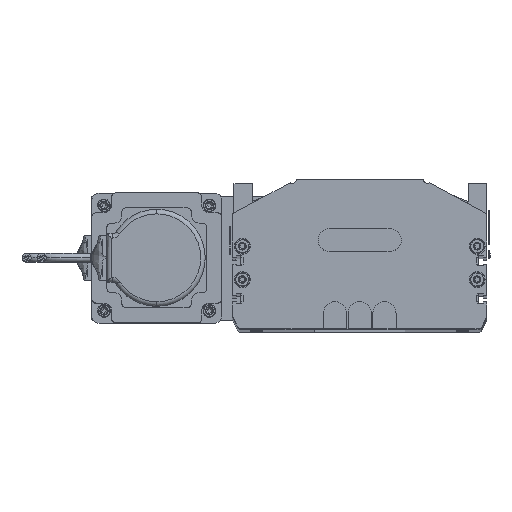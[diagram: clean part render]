
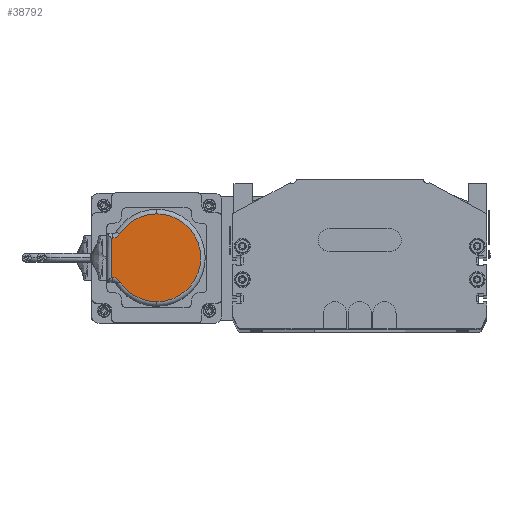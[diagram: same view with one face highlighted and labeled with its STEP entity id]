
A CAD part, top view. The second image highlights one B-rep face of the part: STEP entity #38792.
In plain terms, the highlighted planar face has unit normal (0, 0, 1).
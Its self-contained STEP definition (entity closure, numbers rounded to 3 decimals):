
#24656 = CIRCLE ( 'NONE', #24734, 29. ) ;
#24659 = CARTESIAN_POINT ( 'NONE',  ( 33., 33., 26. ) ) ;
#24674 = DIRECTION ( 'NONE',  ( 1., 0., 0. ) ) ;
#24675 = DIRECTION ( 'NONE',  ( 0., 0., 1. ) ) ;
#24676 = CARTESIAN_POINT ( 'NONE',  ( 33., 33., 26. ) ) ;
#24682 = FACE_OUTER_BOUND ( 'NONE', #39007, .T. ) ;
#24686 = PLANE ( 'NONE',  #24687 ) ;
#24687 = AXIS2_PLACEMENT_3D ( 'NONE', #24676, #24675, #24674 ) ;
#24688 = CARTESIAN_POINT ( 'NONE',  ( 4., 33., 26. ) ) ;
#24720 = CARTESIAN_POINT ( 'NONE',  ( 17.257, 57.355, 26. ) ) ;
#24732 = DIRECTION ( 'NONE',  ( 1., 0., 0. ) ) ;
#24733 = DIRECTION ( 'NONE',  ( 0., 0., 1. ) ) ;
#24734 = AXIS2_PLACEMENT_3D ( 'NONE', #24659, #24733, #24732 ) ;
#26321 = CARTESIAN_POINT ( 'NONE',  ( 46., 62.394, 26. ) ) ;
#26982 = CARTESIAN_POINT ( 'NONE',  ( 46., 63., 26. ) ) ;
#26992 = AXIS2_PLACEMENT_3D ( 'NONE', #27030, #27020, #27148 ) ;
#27020 = DIRECTION ( 'NONE',  ( 0., 0., 1. ) ) ;
#27030 = CARTESIAN_POINT ( 'NONE',  ( 52., 62.394, 26. ) ) ;
#27148 = DIRECTION ( 'NONE',  ( 1., 0., 0. ) ) ;
#27164 = CIRCLE ( 'NONE', #26992, 6. ) ;
#29377 = CARTESIAN_POINT ( 'NONE',  ( 62., 33., 26. ) ) ;
#29580 = CARTESIAN_POINT ( 'NONE',  ( 20., 62.394, 26. ) ) ;
#30041 = CIRCLE ( 'NONE', #30345, 6. ) ;
#30345 = AXIS2_PLACEMENT_3D ( 'NONE', #30374, #30347, #30398 ) ;
#30347 = DIRECTION ( 'NONE',  ( 0., 0., 1. ) ) ;
#30374 = CARTESIAN_POINT ( 'NONE',  ( 14., 62.394, 26. ) ) ;
#30398 = DIRECTION ( 'NONE',  ( 1., 0., 0. ) ) ;
#30784 = DIRECTION ( 'NONE',  ( 1., 0., 0. ) ) ;
#30785 = CARTESIAN_POINT ( 'NONE',  ( 20., 63., 26. ) ) ;
#30787 = DIRECTION ( 'NONE',  ( 0., 1., 0. ) ) ;
#30940 = DIRECTION ( 'NONE',  ( 0., -1., 0. ) ) ;
#30941 = VECTOR ( 'NONE', #30940, 1000. ) ;
#30943 = CARTESIAN_POINT ( 'NONE',  ( 20., 33., 26. ) ) ;
#30948 = LINE ( 'NONE', #30943, #30941 ) ;
#32973 = CARTESIAN_POINT ( 'NONE',  ( 48.743, 57.355, 26. ) ) ;
#33542 = CARTESIAN_POINT ( 'NONE',  ( 46., 33., 26. ) ) ;
#33543 = AXIS2_PLACEMENT_3D ( 'NONE', #33603, #33602, #30784 ) ;
#33595 = LINE ( 'NONE', #33542, #33599 ) ;
#33599 = VECTOR ( 'NONE', #30787, 1000. ) ;
#33602 = DIRECTION ( 'NONE',  ( 0., 0., 1. ) ) ;
#33603 = CARTESIAN_POINT ( 'NONE',  ( 33., 33., 26. ) ) ;
#33664 = DIRECTION ( 'NONE',  ( -1., 0., 0. ) ) ;
#33665 = VECTOR ( 'NONE', #33664, 1000. ) ;
#33667 = CARTESIAN_POINT ( 'NONE',  ( 17.5, 63., 26. ) ) ;
#33673 = LINE ( 'NONE', #33667, #33665 ) ;
#33746 = CIRCLE ( 'NONE', #33543, 29. ) ;
#37795 = EDGE_CURVE ( 'NONE', #38757, #38682, #46701, .T. ) ;
#38679 = VERTEX_POINT ( 'NONE', #30785 ) ;
#38680 = EDGE_CURVE ( 'NONE', #38770, #39161, #30041, .T. ) ;
#38682 = VERTEX_POINT ( 'NONE', #32973 ) ;
#38694 = ORIENTED_EDGE ( 'NONE', *, *, #38705, .T. ) ;
#38695 = EDGE_CURVE ( 'NONE', #38983, #38679, #33673, .T. ) ;
#38700 = EDGE_CURVE ( 'NONE', #38679, #39161, #30948, .T. ) ;
#38703 = ORIENTED_EDGE ( 'NONE', *, *, #38695, .T. ) ;
#38705 = EDGE_CURVE ( 'NONE', #38949, #38983, #33595, .T. ) ;
#38709 = ORIENTED_EDGE ( 'NONE', *, *, #38700, .T. ) ;
#38720 = ORIENTED_EDGE ( 'NONE', *, *, #38780, .T. ) ;
#38721 = ORIENTED_EDGE ( 'NONE', *, *, #38680, .F. ) ;
#38730 = EDGE_CURVE ( 'NONE', #38782, #38757, #33746, .T. ) ;
#38757 = VERTEX_POINT ( 'NONE', #29377 ) ;
#38770 = VERTEX_POINT ( 'NONE', #24720 ) ;
#38780 = EDGE_CURVE ( 'NONE', #38770, #38782, #24656, .T. ) ;
#38782 = VERTEX_POINT ( 'NONE', #24688 ) ;
#38792 = ADVANCED_FACE ( 'NONE', ( #24682 ), #24686, .T. ) ;
#38802 = ORIENTED_EDGE ( 'NONE', *, *, #37795, .T. ) ;
#38949 = VERTEX_POINT ( 'NONE', #26321 ) ;
#38983 = VERTEX_POINT ( 'NONE', #26982 ) ;
#38998 = ORIENTED_EDGE ( 'NONE', *, *, #39006, .F. ) ;
#39006 = EDGE_CURVE ( 'NONE', #38949, #38682, #27164, .T. ) ;
#39007 = EDGE_LOOP ( 'NONE', ( #38721, #38720, #39160, #38802, #38998, #38694, #38703, #38709 ) ) ;
#39160 = ORIENTED_EDGE ( 'NONE', *, *, #38730, .T. ) ;
#39161 = VERTEX_POINT ( 'NONE', #29580 ) ;
#46630 = AXIS2_PLACEMENT_3D ( 'NONE', #46714, #46713, #46712 ) ;
#46701 = CIRCLE ( 'NONE', #46630, 29. ) ;
#46712 = DIRECTION ( 'NONE',  ( 1., 0., 0. ) ) ;
#46713 = DIRECTION ( 'NONE',  ( 0., 0., 1. ) ) ;
#46714 = CARTESIAN_POINT ( 'NONE',  ( 33., 33., 26. ) ) ;
